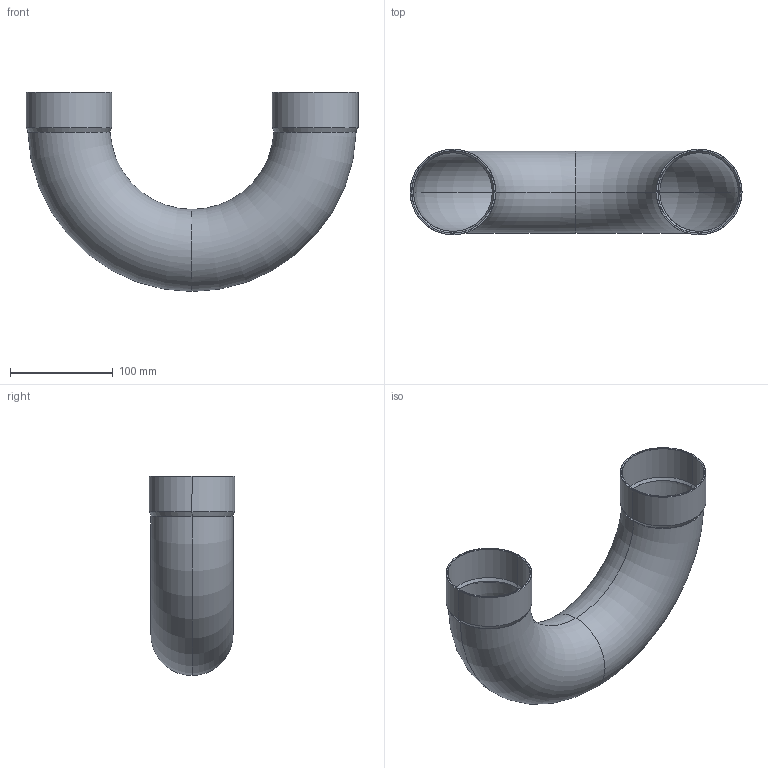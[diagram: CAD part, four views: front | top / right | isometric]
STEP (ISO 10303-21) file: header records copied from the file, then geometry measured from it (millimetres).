
FILE_DESCRIPTION((''),'2;1');
FILE_NAME('C:\sanha_work\5130\f\1506080.stp','2005-10-21T17:22:40',('Kris'),(''),'Autodesk Inventor 8','Autodesk Inventor 8','');
FILE_SCHEMA(('AUTOMOTIVE_DESIGN { 1 0 10303 214 1 1 1 1 }'));
Length unit declared in the file: millimetre
Products named in the file (1): 1506080
Bounding box: 323.6 x 83.6 x 194 mm (x, y, z)
Volume: 198427.6 mm3; surface area: 222005.6 mm2
Topology: 1 solids, 1 shells, 38 faces, 76 edges, 44 vertices
Faces by surface type: cone 12, bspline 11, torus 8, cylinder 4, plane 3
Entity records: 1363 total; most frequent: CARTESIAN_POINT 568, DIRECTION 168, ORIENTED_EDGE 152, EDGE_CURVE 76, AXIS2_PLACEMENT_3D 72, VERTEX_POINT 44, CIRCLE 44, EDGE_LOOP 44
